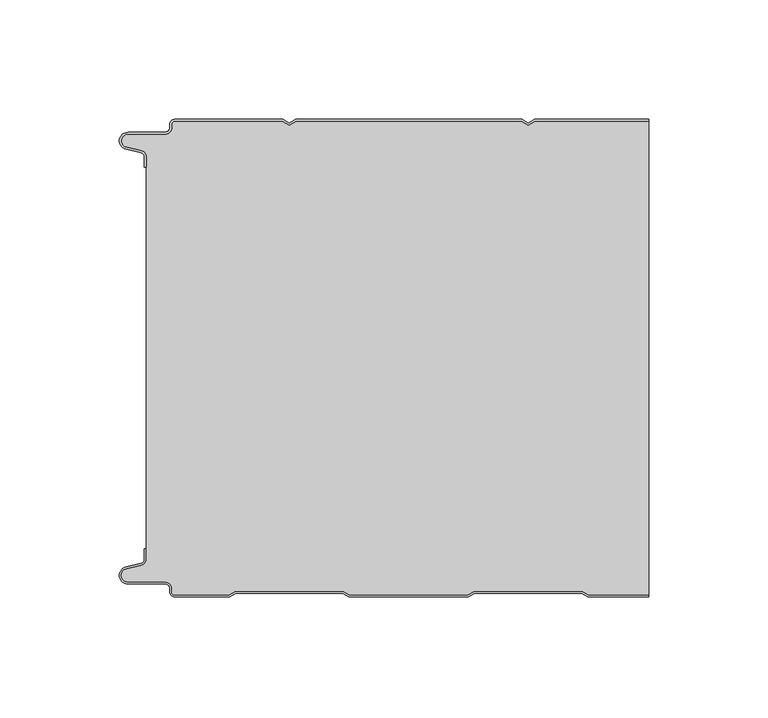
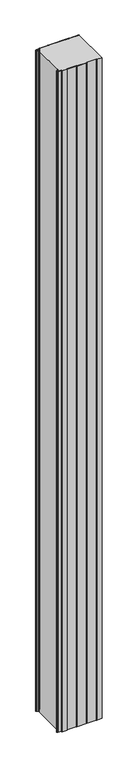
"""IFC4 building model written with IfcOpenShell, lengths in millimetres: plate geometry, PMH_Curtain-PaneL-Standard : ACH_PMH_Stone-wool-Panel_200M."""

from ifc_helpers import new_model, si_unit, point, frame_2d, origin, origin_with_axes, place, context, project, spatial, polyline, circle_curve, trimmed, segment, composite_curve, outline, extrude, source, transform, mapped, element, save


def plate_14de9cfa(model_context):
    return source(origin(), model_context, "Body", "SweptSolid", [
        extrude(outline(composite_curve([segment(trimmed(circle_curve(frame_2d((-102.0, -15.878557)), 2.0), [point((-100.0, -15.878557))], [point((-101.5500978, -13.9298169))], True, "CARTESIAN"), True, "CONTINUOUS"), segment(polyline([(-101.5500978, -13.9298169), (-107.7098239, -12.507732)]), True, "CONTINUOUS"), segment(trimmed(circle_curve(frame_2d((-106.9, -9.0)), 3.6), [point((-107.7098239, -12.507732))], [point((-106.9, -5.4))], False, "CARTESIAN"), True, "CONTINUOUS"), segment(polyline([(-106.9, -5.4), (-91.4, -5.4)]), True, "CONTINUOUS"), segment(trimmed(circle_curve(frame_2d((-91.4, -3.4)), 2.0), [point((-91.4, -5.4))], [point((-89.4, -3.4))], True, "CARTESIAN"), True, "CONTINUOUS"), segment(polyline([(-89.4, -3.4), (-89.4, -2.0)]), True, "CONTINUOUS"), segment(trimmed(circle_curve(frame_2d((-87.4, -2.0)), 2.0), [point((-89.4, -2.0))], [point((-87.4, 0.0))], False, "CARTESIAN"), True, "CONTINUOUS"), segment(polyline([(-87.4, 0.0), (-42.0999995, 0.0), (-39.4, -1.5588455), (-36.7000005, 0.0), (57.9000005, 0.0), (60.6, -1.5588455), (63.2999995, 0.0), (111.0, 0.0), (111.0, -0.8), (63.5143588, -0.8), (60.6, -2.482606), (57.6856412, -0.8), (-36.4856412, -0.8), (-39.4, -2.482606), (-42.3143588, -0.8), (-87.4, -0.8)]), True, "CONTINUOUS"), segment(trimmed(circle_curve(frame_2d((-87.4, -2.0)), 1.2), [point((-87.4, -0.8))], [point((-88.6, -2.0))], True, "CARTESIAN"), True, "CONTINUOUS"), segment(polyline([(-88.6, -2.0), (-88.6, -3.4)]), True, "CONTINUOUS"), segment(trimmed(circle_curve(frame_2d((-91.4, -3.4)), 2.8), [point((-88.6, -3.4))], [point((-91.4, -6.2))], False, "CARTESIAN"), True, "CONTINUOUS"), segment(polyline([(-91.4, -6.2), (-106.9, -6.2)]), True, "CONTINUOUS"), segment(trimmed(circle_curve(frame_2d((-106.9, -9.0)), 2.8), [point((-106.9, -6.2))], [point((-107.529863, -11.7282362))], True, "CARTESIAN"), True, "CONTINUOUS"), segment(polyline([(-107.529863, -11.7282362), (-101.370137, -13.150321)]), True, "CONTINUOUS"), segment(trimmed(circle_curve(frame_2d((-102.0, -15.878557)), 2.8), [point((-101.370137, -13.150321))], [point((-99.2, -15.878557))], False, "CARTESIAN"), True, "CONTINUOUS"), segment(polyline([(-99.2, -15.878557), (-99.2, -20.0), (-100.0, -20.0), (-100.0, -15.878557)]), True, "CONTINUOUS")], self_intersect=False)), origin_with_axes(), (0.0, 0.0, 1.0), 3500.0),
        extrude(outline(composite_curve([segment(polyline([(-99.2, -184.121443), (-99.2, -15.8785573)]), True, "CONTINUOUS"), segment(trimmed(circle_curve(frame_2d((-102.0, -15.8785573)), 2.8), [point((-99.2, -15.8785573))], [point((-101.370137, -13.1503212))], True, "CARTESIAN"), True, "CONTINUOUS"), segment(polyline([(-101.370137, -13.1503212), (-107.5298631, -11.7282362)]), True, "CONTINUOUS"), segment(trimmed(circle_curve(frame_2d((-106.9, -9.0)), 2.8), [point((-107.5298631, -11.7282362))], [point((-106.9, -6.2))], False, "CARTESIAN"), True, "CONTINUOUS"), segment(polyline([(-106.9, -6.2), (-91.4000001, -6.2)]), True, "CONTINUOUS"), segment(trimmed(circle_curve(frame_2d((-91.4000001, -3.4)), 2.8), [point((-91.4000001, -6.2))], [point((-88.6000001, -3.4))], True, "CARTESIAN"), True, "CONTINUOUS"), segment(polyline([(-88.6000001, -3.4), (-88.6000001, -2.0)]), True, "CONTINUOUS"), segment(trimmed(circle_curve(frame_2d((-87.4000001, -2.0)), 1.2), [point((-88.6000001, -2.0))], [point((-87.4000001, -0.8))], False, "CARTESIAN"), True, "CONTINUOUS"), segment(polyline([(-87.4000001, -0.8), (-42.3143589, -0.8), (-39.4000001, -2.482606), (-36.4856412, -0.8), (57.6856411, -0.8), (60.5999999, -2.482606), (63.5143588, -0.8), (111.0, -0.8), (111.0, -199.2), (85.8105122, -199.2), (83.2124346, -197.7), (37.9837184, -197.7), (35.3856408, -199.2), (-14.1894878, -199.2), (-16.7875654, -197.7), (-62.0162816, -197.7), (-64.6143592, -199.2), (-87.4, -199.2)]), True, "CONTINUOUS"), segment(trimmed(circle_curve(frame_2d((-87.4, -198.0)), 1.2), [point((-87.4, -199.2))], [point((-88.6, -198.0))], False, "CARTESIAN"), True, "CONTINUOUS"), segment(polyline([(-88.6, -198.0), (-88.6, -196.5999998)]), True, "CONTINUOUS"), segment(trimmed(circle_curve(frame_2d((-91.4, -196.5999998)), 2.8), [point((-88.6, -196.5999998))], [point((-91.4, -193.7999998))], True, "CARTESIAN"), True, "CONTINUOUS"), segment(polyline([(-91.4, -193.7999998), (-106.9, -193.7999998)]), True, "CONTINUOUS"), segment(trimmed(circle_curve(frame_2d((-106.9, -191.0)), 2.7999998), [point((-106.9, -193.7999998))], [point((-107.529863, -188.271764))], False, "CARTESIAN"), True, "CONTINUOUS"), segment(polyline([(-107.529863, -188.271764), (-101.370137, -186.8496792)]), True, "CONTINUOUS"), segment(trimmed(circle_curve(frame_2d((-102.0, -184.121443)), 2.8), [point((-101.370137, -186.8496792))], [point((-99.2, -184.121443))], True, "CARTESIAN"), True, "CONTINUOUS")], self_intersect=False)), origin_with_axes(), (0.0, 0.0, 1.0), 3500.0),
        extrude(outline(composite_curve([segment(trimmed(circle_curve(frame_2d((-87.4, -198.0)), 2.0), [point((-87.4, -200.0))], [point((-89.4, -198.0))], False, "CARTESIAN"), True, "CONTINUOUS"), segment(polyline([(-89.4, -198.0), (-89.4, -196.6)]), True, "CONTINUOUS"), segment(trimmed(circle_curve(frame_2d((-91.4, -196.6)), 2.0), [point((-89.4, -196.6))], [point((-91.4, -194.6))], True, "CARTESIAN"), True, "CONTINUOUS"), segment(polyline([(-91.4, -194.6), (-106.9, -194.6)]), True, "CONTINUOUS"), segment(trimmed(circle_curve(frame_2d((-106.9, -191.0)), 3.6), [point((-106.9, -194.6))], [point((-107.7098239, -187.4922678))], False, "CARTESIAN"), True, "CONTINUOUS"), segment(polyline([(-107.7098239, -187.4922678), (-101.5500979, -186.070183)]), True, "CONTINUOUS"), segment(trimmed(circle_curve(frame_2d((-102.0, -184.121443)), 2.0), [point((-101.5500979, -186.070183))], [point((-100.0, -184.121443))], True, "CARTESIAN"), True, "CONTINUOUS"), segment(polyline([(-100.0, -184.121443), (-100.0, -180.0), (-99.2, -180.0), (-99.2, -184.121443)]), True, "CONTINUOUS"), segment(trimmed(circle_curve(frame_2d((-102.0, -184.121443)), 2.8), [point((-99.2, -184.121443))], [point((-101.370137, -186.8496792))], False, "CARTESIAN"), True, "CONTINUOUS"), segment(polyline([(-101.370137, -186.8496792), (-107.529863, -188.271764)]), True, "CONTINUOUS"), segment(trimmed(circle_curve(frame_2d((-106.9, -191.0)), 2.8), [point((-107.529863, -188.271764))], [point((-106.9, -193.8))], True, "CARTESIAN"), True, "CONTINUOUS"), segment(polyline([(-106.9, -193.8), (-91.4, -193.8)]), True, "CONTINUOUS"), segment(trimmed(circle_curve(frame_2d((-91.4, -196.6)), 2.8), [point((-91.4, -193.8))], [point((-88.6, -196.6))], False, "CARTESIAN"), True, "CONTINUOUS"), segment(polyline([(-88.6, -196.6), (-88.6, -198.0)]), True, "CONTINUOUS"), segment(trimmed(circle_curve(frame_2d((-87.4, -198.0)), 1.2), [point((-88.6, -198.0))], [point((-87.4, -199.2))], True, "CARTESIAN"), True, "CONTINUOUS"), segment(polyline([(-87.4, -199.2), (-64.6143592, -199.2), (-62.0162816, -197.7), (-16.7875654, -197.7), (-14.1894878, -199.2), (35.3856408, -199.2), (37.9837184, -197.7), (83.2124346, -197.7), (85.8105122, -199.2), (111.0, -199.2), (111.0, -200.0), (85.5961529, -200.0), (82.9980753, -198.5), (38.1980777, -198.5), (35.6000001, -200.0), (-14.4038471, -200.0), (-17.0019247, -198.5), (-61.8019223, -198.5), (-64.3999999, -200.0), (-87.4, -200.0)]), True, "CONTINUOUS")], self_intersect=False)), origin_with_axes(), (0.0, 0.0, 1.0), 3500.0),
    ])


if __name__ == "__main__":
    model = new_model("IFC4")
    model_context = context("Model", 3, world=origin())
    ifc_project = project(units=[si_unit("LENGTHUNIT", "METRE", prefix="MILLI")], contexts=[model_context])
    site = spatial("IfcSite", under=ifc_project)
    building = spatial("IfcBuilding", under=site)
    placement = place(None, origin())
    plate_shape = plate_14de9cfa(model_context)
    element("IfcPlate", 1, ObjectType="PMH_Curtain-PaneL-Standard : ACH_PMH_Stone-wool-Panel_200M", at=placement, inside=building, context=model_context, shape_type="MappedRepresentation", body=[
        mapped(plate_shape, transform((0.0, 0.0, 0.0), x_axis=(1.0, 0.0, 0.0), y_axis=(0.0, 1.0, 0.0), z_axis=(0.0, 0.0, 1.0))),
    ])
    save(model, "model.ifc")
